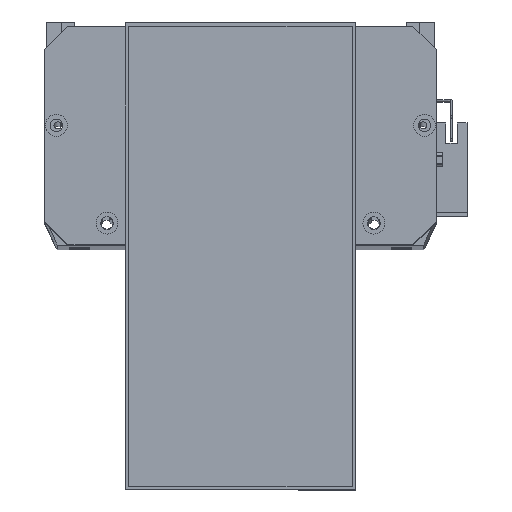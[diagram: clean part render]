
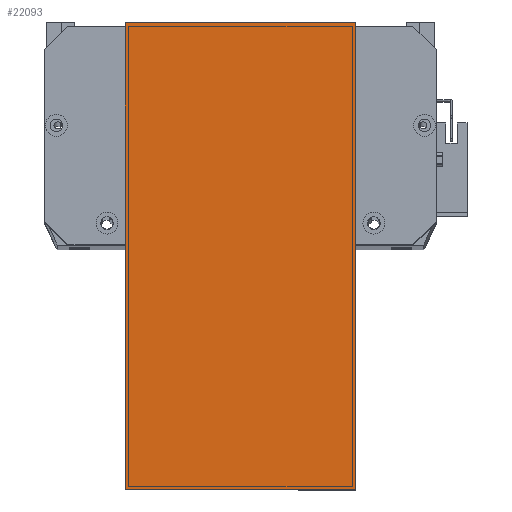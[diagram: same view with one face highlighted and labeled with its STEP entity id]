
A CAD part, top view. The second image highlights one B-rep face of the part: STEP entity #22093.
In plain terms, the highlighted planar face has unit normal (0, 0, 1) as drawn and (0, 0, -1) by its records, which use the part's own axes.
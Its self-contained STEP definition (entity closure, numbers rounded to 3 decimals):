
#718 = DIRECTION ( 'NONE',  ( 0., 1., 0. ) ) ;
#1279 = CARTESIAN_POINT ( 'NONE',  ( -12., 19.5, 0. ) ) ;
#1799 = PLANE ( 'NONE',  #13593 ) ;
#1971 = EDGE_CURVE ( 'NONE', #7718, #18585, #14497, .T. ) ;
#3347 = DIRECTION ( 'NONE',  ( 1., 0., 0. ) ) ;
#4079 = DIRECTION ( 'NONE',  ( 0., 0., -1. ) ) ;
#4148 = ORIENTED_EDGE ( 'NONE', *, *, #1971, .T. ) ;
#4853 = EDGE_CURVE ( 'NONE', #26659, #18585, #24546, .T. ) ;
#5616 = CARTESIAN_POINT ( 'NONE',  ( 0., 0., 0. ) ) ;
#5895 = ORIENTED_EDGE ( 'NONE', *, *, #22557, .F. ) ;
#6216 = CARTESIAN_POINT ( 'NONE',  ( 0., 19.5, 0. ) ) ;
#7187 = FACE_OUTER_BOUND ( 'NONE', #23147, .T. ) ;
#7691 = CARTESIAN_POINT ( 'NONE',  ( 0., 119.5, 0. ) ) ;
#7718 = VERTEX_POINT ( 'NONE', #7691 ) ;
#8341 = VECTOR ( 'NONE', #21439, 1000. ) ;
#8489 = VECTOR ( 'NONE', #3347, 1000. ) ;
#9284 = LINE ( 'NONE', #1279, #19921 ) ;
#10381 = DIRECTION ( 'NONE',  ( 1., 0., 0. ) ) ;
#11379 = VERTEX_POINT ( 'NONE', #6216 ) ;
#11464 = EDGE_CURVE ( 'NONE', #7718, #11379, #14358, .T. ) ;
#13262 = VECTOR ( 'NONE', #718, 1000. ) ;
#13593 = AXIS2_PLACEMENT_3D ( 'NONE', #15360, #4079, #19893 ) ;
#14358 = LINE ( 'NONE', #5616, #8341 ) ;
#14497 = LINE ( 'NONE', #14636, #8489 ) ;
#14636 = CARTESIAN_POINT ( 'NONE',  ( -12., 119.5, 0. ) ) ;
#15360 = CARTESIAN_POINT ( 'NONE',  ( 0., 0., 0. ) ) ;
#16533 = CARTESIAN_POINT ( 'NONE',  ( 203., 0., 0. ) ) ;
#18585 = VERTEX_POINT ( 'NONE', #27897 ) ;
#19893 = DIRECTION ( 'NONE',  ( -1., 0., 0. ) ) ;
#19921 = VECTOR ( 'NONE', #10381, 1000. ) ;
#20777 = ORIENTED_EDGE ( 'NONE', *, *, #4853, .F. ) ;
#21439 = DIRECTION ( 'NONE',  ( 0., -1., 0. ) ) ;
#22093 = ADVANCED_FACE ( 'NONE', ( #7187 ), #1799, .T. ) ;
#22557 = EDGE_CURVE ( 'NONE', #11379, #26659, #9284, .T. ) ;
#23147 = EDGE_LOOP ( 'NONE', ( #5895, #24791, #4148, #20777 ) ) ;
#24546 = LINE ( 'NONE', #16533, #13262 ) ;
#24791 = ORIENTED_EDGE ( 'NONE', *, *, #11464, .F. ) ;
#26659 = VERTEX_POINT ( 'NONE', #27752 ) ;
#27752 = CARTESIAN_POINT ( 'NONE',  ( 203., 19.5, 0. ) ) ;
#27897 = CARTESIAN_POINT ( 'NONE',  ( 203., 119.5, 0. ) ) ;
